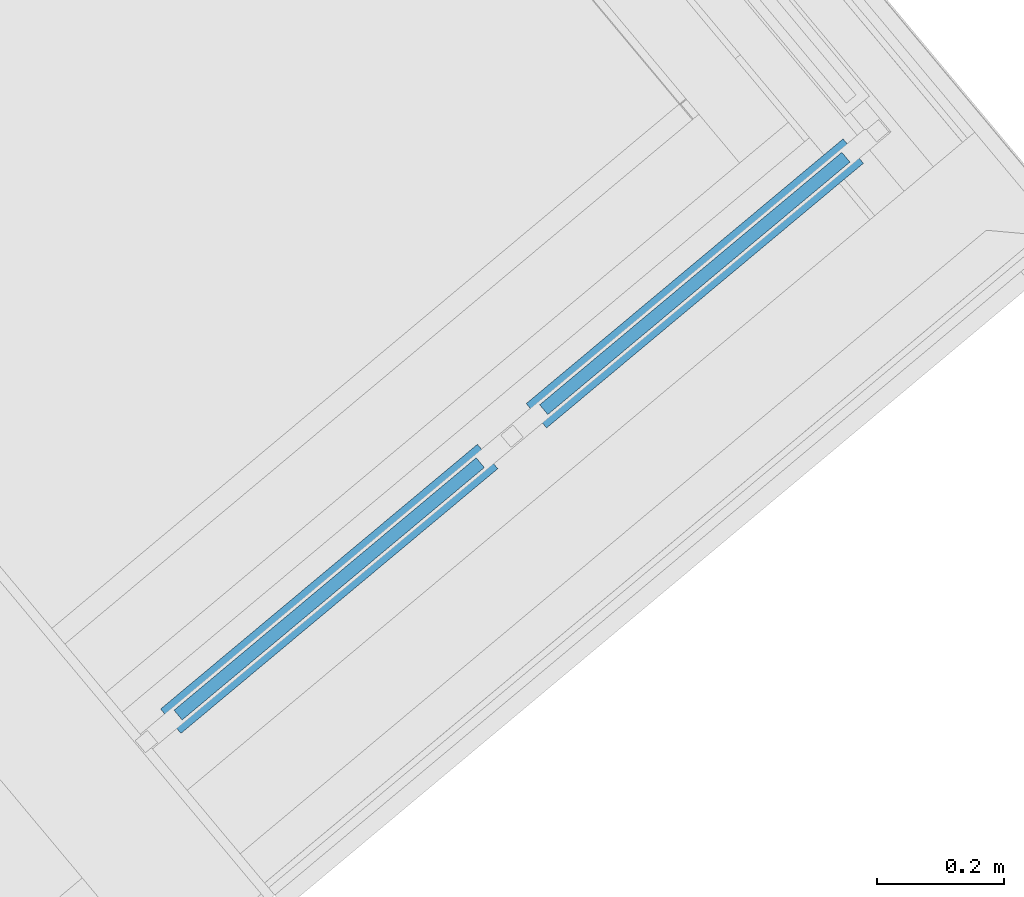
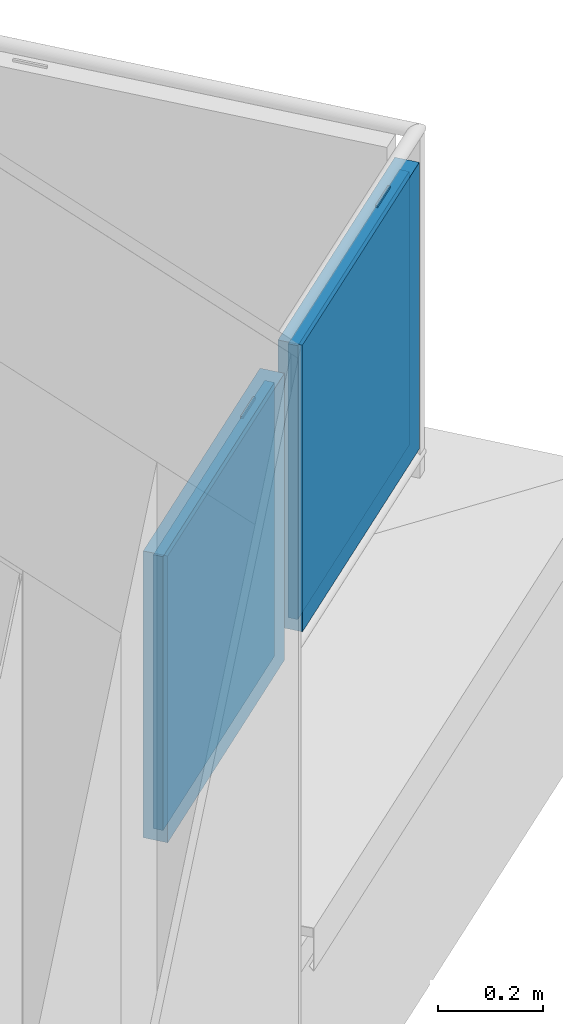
# One storey, part 47 of 61: 4 building element parts, 1 element without a shape of its own.
"""IFC4 building model written with IfcOpenShell, lengths in metres."""

from ifc_helpers import new_model, entity, si_unit, converted_unit, derived_unit, direction, frame, origin_with_axes, place, context, subcontext, project, spatial, polygons, material, type_object, element, aggregate, save


model = new_model("IFC4")

# Units and contexts
model_context = context("Model", 3, precision=1e-05, world=origin_with_axes(), true_north=direction((0.0, 1.0)))
body_context = subcontext(model_context, "Body", "Model", "MODEL_VIEW")
ifc_project = project(units=[si_unit("LENGTHUNIT", "METRE"), si_unit("AREAUNIT", "SQUARE_METRE"), si_unit("VOLUMEUNIT", "CUBIC_METRE"), converted_unit("PLANEANGLEUNIT", "DEGREE", entity("IfcPlaneAngleMeasure", 0.0174532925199), si_unit("PLANEANGLEUNIT", "RADIAN"), dimensions=[0, 0, 0, 0, 0, 0, 0]), converted_unit("TIMEUNIT", "Year", entity("IfcTimeMeasure", 31556926.0), si_unit("TIMEUNIT", "SECOND"), dimensions=[0, 0, 1, 0, 0, 0, 0]), si_unit("MASSUNIT", "GRAM", prefix="KILO"), si_unit("THERMODYNAMICTEMPERATUREUNIT", "DEGREE_CELSIUS"), si_unit("LUMINOUSINTENSITYUNIT", "LUMEN"), si_unit("ENERGYUNIT", "JOULE", prefix="MEGA"), derived_unit("THERMALCONDUCTANCEUNIT", [(si_unit("POWERUNIT", "WATT"), 1), (si_unit("LENGTHUNIT", "METRE"), -1), (si_unit("THERMODYNAMICTEMPERATUREUNIT", "KELVIN"), -1)]), derived_unit("SPECIFICHEATCAPACITYUNIT", [(si_unit("ENERGYUNIT", "JOULE"), 1), (si_unit("MASSUNIT", "GRAM", prefix="KILO"), -1), (si_unit("THERMODYNAMICTEMPERATUREUNIT", "KELVIN"), -1)]), derived_unit("MASSDENSITYUNIT", [(si_unit("MASSUNIT", "GRAM", prefix="KILO"), 1), (si_unit("VOLUMEUNIT", "CUBIC_METRE"), -1)])], contexts=[model_context])

# Site, building, storey, space
site_placement = place(None, frame((-0.00153261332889, -0.00661245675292, 0.0), z_axis=(0.0, 0.0, 1.0), x_axis=(1.0, 0.0, 0.0)))
site = spatial("IfcSite", under=ifc_project, at=site_placement, Name="Gelände", CompositionType="ELEMENT")
building_placement = place(site_placement, origin_with_axes())
building = spatial("IfcBuilding", under=site, at=building_placement, Name="Gebäude", CompositionType="ELEMENT")
storey_placement = place(building_placement, frame((0.0, 0.0, 5.7), z_axis=(0.0, 0.0, 1.0), x_axis=(1.0, 0.0, 0.0)))
storey = spatial("IfcBuildingStorey", under=building, at=storey_placement, Name="DG1", CompositionType="ELEMENT", Elevation=5.7)
space_placement = place(storey_placement, frame((9.89495575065, 25.0808160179, 0.22), z_axis=(0.0, 0.0, 1.0), x_axis=(-0.767365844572, -0.641209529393, 0.0)))
space = spatial("IfcSpace", under=storey, at=space_placement, CompositionType="ELEMENT", PredefinedType="NOTDEFINED")

# Railing, building element parts
railing_type = type_object("IfcRailingType", Name="Geländerart", PredefinedType="NOTDEFINED")
railing_placement = place(space_placement, frame((0.391162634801, 5.51606821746, 0.16), z_axis=(0.0, 0.0, 1.0), x_axis=(-0.767365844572, 0.641209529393, 0.0)))
railing = element("IfcRailing", 1, at=railing_placement, inside=space, type_object=railing_type, Name="Geländer - 001", PredefinedType="NOTDEFINED")
ifc_material_1 = material(Name="Profilit")
building_element_part_1_placement = place(railing_placement, origin_with_axes())
building_element_part_1 = element("IfcBuildingElementPart", 2, at=building_element_part_1_placement, material=ifc_material_1, Name="Profilit", PredefinedType="NOTDEFINED", context=body_context, shape_type="Tessellation", body=[
    polygons([(0.583174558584, 0.369883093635, 0.135), (0.107589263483, -0.0273954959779, 0.135), (0.107589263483, -0.0273954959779, 0.775), (0.583174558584, 0.369883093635, 0.775), (0.120411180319, -0.0427447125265, 0.135), (0.59599647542, 0.354533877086, 0.135), (0.120411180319, -0.0427447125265, 0.775), (0.59599647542, 0.354533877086, 0.775)], [[[1, 2, 3, 4]], [[5, 2, 1, 6]], [[7, 3, 2, 5]], [[4, 3, 7, 8]], [[1, 4, 8, 6]], [[7, 5, 6, 8]]], closed=True),
])
ifc_material_2 = material(Name="Aluminium")
building_element_part_2_placement = place(railing_placement, origin_with_axes())
building_element_part_2 = element("IfcBuildingElementPart", 3, at=building_element_part_2_placement, material=ifc_material_2, Name="Aluminium", PredefinedType="NOTDEFINED", context=body_context, shape_type="Tessellation", body=[
    polygons([(0.177631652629, 0.0213416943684, 0.12), (0.231353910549, 0.0662184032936, 0.12), (0.231353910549, 0.0662184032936, 0.095), (0.177631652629, 0.0213416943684, 0.095), (0.180837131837, 0.0175043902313, 0.12), (0.234559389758, 0.0623810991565, 0.12), (0.234559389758, 0.0623810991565, 0.095), (0.180837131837, 0.0175043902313, 0.095)], [[[1, 2, 3, 4]], [[5, 6, 2, 1]], [[2, 6, 7, 3]], [[4, 3, 7, 8]], [[1, 4, 8, 5]], [[8, 7, 6, 5]]], closed=True),
    polygons([(0.522748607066, 0.309633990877, 0.79), (0.469026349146, 0.264757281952, 0.79), (0.469026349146, 0.264757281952, 0.795), (0.522748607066, 0.309633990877, 0.795), (0.525954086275, 0.30579668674, 0.79), (0.472231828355, 0.260919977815, 0.79), (0.472231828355, 0.260919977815, 0.795), (0.525954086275, 0.30579668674, 0.795)], [[[1, 2, 3, 4]], [[5, 6, 2, 1]], [[2, 6, 7, 3]], [[4, 3, 7, 8]], [[1, 4, 8, 5]], [[8, 7, 6, 5]]], closed=True),
    polygons([(0.118515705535, -0.0638730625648, 0.12), (0.0864609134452, -0.0255000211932, 0.12), (0.585070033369, 0.391011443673, 0.12), (0.617124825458, 0.352638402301, 0.12), (0.133864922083, -0.051051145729, 0.14), (0.124248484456, -0.0395392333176, 0.14), (0.120411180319, -0.0427447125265, 0.135), (0.107589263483, -0.0273954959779, 0.135), (0.111426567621, -0.0241900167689, 0.14), (0.101810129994, -0.0126781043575, 0.14), (0.56972081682, 0.378189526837, 0.14), (0.56972081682, 0.378189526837, 0.77), (0.101810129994, -0.0126781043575, 0.77), (0.101810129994, -0.0126781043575, 0.14), (0.0864609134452, -0.0255000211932, 0.12), (0.0864609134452, -0.0255000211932, 0.79), (0.585070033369, 0.391011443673, 0.79), (0.617124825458, 0.352638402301, 0.79), (0.118515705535, -0.0638730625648, 0.79), (0.118515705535, -0.0638730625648, 0.12), (0.133864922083, -0.051051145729, 0.14), (0.133864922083, -0.051051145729, 0.77), (0.60177560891, 0.339816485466, 0.77), (0.60177560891, 0.339816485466, 0.14), (0.592159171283, 0.351328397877, 0.14), (0.592159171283, 0.351328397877, 0.77), (0.124248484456, -0.0395392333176, 0.77), (0.124248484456, -0.0395392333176, 0.14), (0.120411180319, -0.0427447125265, 0.135), (0.120411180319, -0.0427447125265, 0.775), (0.59599647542, 0.354533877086, 0.775), (0.59599647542, 0.354533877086, 0.135), (0.583174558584, 0.369883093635, 0.135), (0.583174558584, 0.369883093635, 0.775), (0.107589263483, -0.0273954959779, 0.775), (0.107589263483, -0.0273954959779, 0.135), (0.111426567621, -0.0241900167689, 0.14), (0.111426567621, -0.0241900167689, 0.77), (0.579337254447, 0.366677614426, 0.77), (0.579337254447, 0.366677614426, 0.14)], [[[1, 2, 3, 4]], [[1, 5, 6, 7, 8, 9, 10, 2]], [[2, 10, 11, 12, 13, 14, 15, 16, 17, 3]], [[4, 3, 17, 18]], [[5, 1, 4, 18, 19, 20, 21, 22, 23, 24]], [[6, 5, 24, 25]], [[7, 6, 25, 26, 27, 28, 29, 30, 31, 32]], [[8, 7, 32, 33]], [[9, 8, 33, 34, 35, 36, 37, 38, 39, 40]], [[10, 9, 40, 11]], [[11, 40, 39, 12]], [[12, 39, 38, 13]], [[13, 38, 37, 14]], [[20, 15, 14, 37, 36, 29, 28, 21]], [[19, 16, 15, 20]], [[18, 17, 16, 19]], [[27, 22, 21, 28]], [[26, 23, 22, 27]], [[25, 24, 23, 26]], [[35, 30, 29, 36]], [[34, 31, 30, 35]], [[33, 32, 31, 34]]], closed=True),
])
building_element_part_3_placement = place(railing_placement, origin_with_axes())
building_element_part_3 = element("IfcBuildingElementPart", 4, at=building_element_part_3_placement, material=ifc_material_1, Name="Profilit", PredefinedType="NOTDEFINED", context=body_context, shape_type="Tessellation", body=[
    polygons([(1.15852976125, 0.85050414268, 0.135), (0.68294446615, 0.453225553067, 0.135), (0.68294446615, 0.453225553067, 0.775), (1.15852976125, 0.85050414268, 0.775), (0.695766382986, 0.437876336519, 0.135), (1.17135167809, 0.835154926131, 0.135), (0.695766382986, 0.437876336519, 0.775), (1.17135167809, 0.835154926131, 0.775)], [[[1, 2, 3, 4]], [[5, 2, 1, 6]], [[7, 3, 2, 5]], [[4, 3, 7, 8]], [[1, 4, 8, 6]], [[7, 5, 6, 8]]], closed=True),
])
building_element_part_4_placement = place(railing_placement, origin_with_axes())
building_element_part_4 = element("IfcBuildingElementPart", 5, at=building_element_part_4_placement, material=ifc_material_2, Name="Aluminium", PredefinedType="NOTDEFINED", context=body_context, shape_type="Tessellation", body=[
    polygons([(0.752986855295, 0.501962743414, 0.12), (0.806709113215, 0.546839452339, 0.12), (0.806709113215, 0.546839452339, 0.095), (0.752986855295, 0.501962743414, 0.095), (0.756192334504, 0.498125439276, 0.12), (0.809914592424, 0.543002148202, 0.12), (0.809914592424, 0.543002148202, 0.095), (0.756192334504, 0.498125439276, 0.095)], [[[1, 2, 3, 4]], [[5, 6, 2, 1]], [[2, 6, 7, 3]], [[4, 3, 7, 8]], [[1, 4, 8, 5]], [[8, 7, 6, 5]]], closed=True),
    polygons([(1.09810380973, 0.790255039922, 0.79), (1.04438155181, 0.745378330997, 0.79), (1.04438155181, 0.745378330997, 0.795), (1.09810380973, 0.790255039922, 0.795), (1.10130928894, 0.786417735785, 0.79), (1.04758703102, 0.74154102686, 0.79), (1.04758703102, 0.74154102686, 0.795), (1.10130928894, 0.786417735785, 0.795)], [[[1, 2, 3, 4]], [[5, 6, 2, 1]], [[2, 6, 7, 3]], [[4, 3, 7, 8]], [[1, 4, 8, 5]], [[8, 7, 6, 5]]], closed=True),
    polygons([(0.693870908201, 0.41674798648, 0.12), (0.661816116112, 0.455121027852, 0.12), (1.16042523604, 0.871632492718, 0.12), (1.19248002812, 0.833259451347, 0.12), (0.70922012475, 0.429569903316, 0.14), (0.699603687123, 0.441081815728, 0.14), (0.695766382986, 0.437876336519, 0.135), (0.68294446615, 0.453225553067, 0.135), (0.686781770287, 0.456431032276, 0.14), (0.67716533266, 0.467942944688, 0.14), (1.14507601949, 0.858810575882, 0.14), (1.14507601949, 0.858810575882, 0.77), (0.67716533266, 0.467942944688, 0.77), (0.67716533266, 0.467942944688, 0.14), (0.661816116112, 0.455121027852, 0.12), (0.661816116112, 0.455121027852, 0.79), (1.16042523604, 0.871632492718, 0.79), (1.19248002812, 0.833259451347, 0.79), (0.693870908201, 0.41674798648, 0.79), (0.693870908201, 0.41674798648, 0.12), (0.70922012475, 0.429569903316, 0.14), (0.70922012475, 0.429569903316, 0.77), (1.17713081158, 0.820437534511, 0.77), (1.17713081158, 0.820437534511, 0.14), (1.16751437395, 0.831949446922, 0.14), (1.16751437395, 0.831949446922, 0.77), (0.699603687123, 0.441081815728, 0.77), (0.699603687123, 0.441081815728, 0.14), (0.695766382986, 0.437876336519, 0.135), (0.695766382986, 0.437876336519, 0.775), (1.17135167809, 0.835154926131, 0.775), (1.17135167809, 0.835154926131, 0.135), (1.15852976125, 0.85050414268, 0.135), (1.15852976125, 0.85050414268, 0.775), (0.68294446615, 0.453225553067, 0.775), (0.68294446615, 0.453225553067, 0.135), (0.686781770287, 0.456431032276, 0.14), (0.686781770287, 0.456431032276, 0.77), (1.15469245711, 0.847298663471, 0.77), (1.15469245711, 0.847298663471, 0.14)], [[[1, 2, 3, 4]], [[1, 5, 6, 7, 8, 9, 10, 2]], [[2, 10, 11, 12, 13, 14, 15, 16, 17, 3]], [[4, 3, 17, 18]], [[5, 1, 4, 18, 19, 20, 21, 22, 23, 24]], [[6, 5, 24, 25]], [[7, 6, 25, 26, 27, 28, 29, 30, 31, 32]], [[8, 7, 32, 33]], [[9, 8, 33, 34, 35, 36, 37, 38, 39, 40]], [[10, 9, 40, 11]], [[11, 40, 39, 12]], [[12, 39, 38, 13]], [[13, 38, 37, 14]], [[20, 15, 14, 37, 36, 29, 28, 21]], [[19, 16, 15, 20]], [[18, 17, 16, 19]], [[27, 22, 21, 28]], [[26, 23, 22, 27]], [[25, 24, 23, 26]], [[35, 30, 29, 36]], [[34, 31, 30, 35]], [[33, 32, 31, 34]]], closed=True),
])
aggregate(railing, [building_element_part_1, building_element_part_2, building_element_part_3, building_element_part_4])

save(model, "model.ifc")
